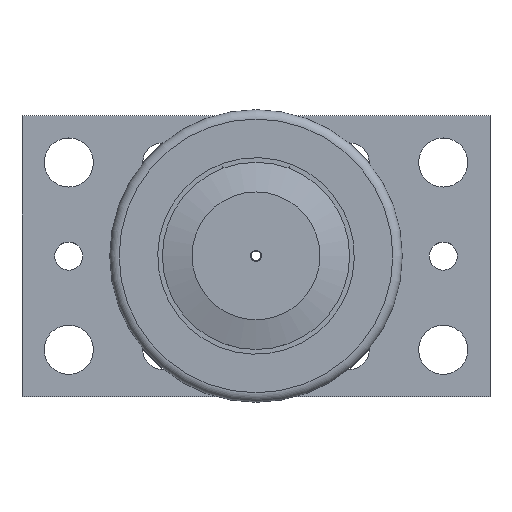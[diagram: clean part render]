
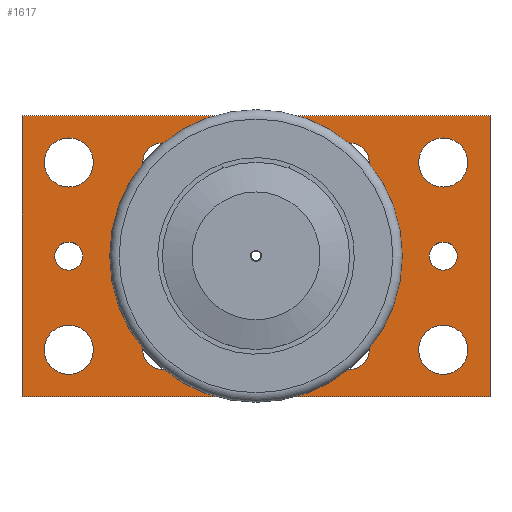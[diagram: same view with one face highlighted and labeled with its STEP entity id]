
A CAD part, top view. The second image highlights one B-rep face of the part: STEP entity #1617.
In plain terms, the highlighted planar face has unit normal (0, 0, 1).
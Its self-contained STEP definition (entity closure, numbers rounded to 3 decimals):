
#69=FACE_BOUND('',#229,.T.);
#70=FACE_BOUND('',#230,.T.);
#71=FACE_BOUND('',#231,.T.);
#72=FACE_BOUND('',#232,.T.);
#73=FACE_BOUND('',#233,.T.);
#74=FACE_BOUND('',#234,.T.);
#75=FACE_BOUND('',#235,.T.);
#76=FACE_BOUND('',#236,.T.);
#77=FACE_BOUND('',#237,.T.);
#78=FACE_BOUND('',#238,.T.);
#79=FACE_BOUND('',#239,.T.);
#114=PLANE('',#1730);
#143=FACE_OUTER_BOUND('',#228,.T.);
#228=EDGE_LOOP('',(#1061,#1062,#1063,#1064));
#229=EDGE_LOOP('',(#1065,#1066));
#230=EDGE_LOOP('',(#1067,#1068));
#231=EDGE_LOOP('',(#1069,#1070));
#232=EDGE_LOOP('',(#1071,#1072));
#233=EDGE_LOOP('',(#1073,#1074));
#234=EDGE_LOOP('',(#1075));
#235=EDGE_LOOP('',(#1076));
#236=EDGE_LOOP('',(#1077));
#237=EDGE_LOOP('',(#1078));
#238=EDGE_LOOP('',(#1079));
#239=EDGE_LOOP('',(#1080));
#358=LINE('',#2564,#420);
#359=LINE('',#2566,#421);
#360=LINE('',#2568,#422);
#361=LINE('',#2569,#423);
#420=VECTOR('',#1993,10.);
#421=VECTOR('',#1994,10.);
#422=VECTOR('',#1995,10.);
#423=VECTOR('',#1996,10.);
#484=CIRCLE('',#1731,17.5);
#485=CIRCLE('',#1732,17.5);
#486=CIRCLE('',#1733,4.188);
#487=CIRCLE('',#1734,4.188);
#488=CIRCLE('',#1735,4.188);
#489=CIRCLE('',#1736,4.188);
#490=CIRCLE('',#1737,4.188);
#491=CIRCLE('',#1738,4.188);
#492=CIRCLE('',#1739,4.188);
#493=CIRCLE('',#1740,4.188);
#494=CIRCLE('',#1741,5.25);
#495=CIRCLE('',#1742,5.25);
#496=CIRCLE('',#1743,5.25);
#497=CIRCLE('',#1744,5.25);
#498=CIRCLE('',#1745,3.);
#499=CIRCLE('',#1746,3.);
#653=VERTEX_POINT('',#2562);
#654=VERTEX_POINT('',#2563);
#655=VERTEX_POINT('',#2565);
#656=VERTEX_POINT('',#2567);
#657=VERTEX_POINT('',#2570);
#658=VERTEX_POINT('',#2571);
#659=VERTEX_POINT('',#2574);
#660=VERTEX_POINT('',#2575);
#661=VERTEX_POINT('',#2578);
#662=VERTEX_POINT('',#2579);
#663=VERTEX_POINT('',#2582);
#664=VERTEX_POINT('',#2583);
#665=VERTEX_POINT('',#2586);
#666=VERTEX_POINT('',#2587);
#667=VERTEX_POINT('',#2590);
#668=VERTEX_POINT('',#2592);
#669=VERTEX_POINT('',#2594);
#670=VERTEX_POINT('',#2596);
#671=VERTEX_POINT('',#2598);
#672=VERTEX_POINT('',#2600);
#829=EDGE_CURVE('',#653,#654,#358,.T.);
#830=EDGE_CURVE('',#655,#653,#359,.T.);
#831=EDGE_CURVE('',#656,#655,#360,.T.);
#832=EDGE_CURVE('',#654,#656,#361,.T.);
#833=EDGE_CURVE('',#657,#658,#484,.T.);
#834=EDGE_CURVE('',#658,#657,#485,.T.);
#835=EDGE_CURVE('',#659,#660,#486,.T.);
#836=EDGE_CURVE('',#660,#659,#487,.T.);
#837=EDGE_CURVE('',#661,#662,#488,.T.);
#838=EDGE_CURVE('',#662,#661,#489,.T.);
#839=EDGE_CURVE('',#663,#664,#490,.T.);
#840=EDGE_CURVE('',#664,#663,#491,.T.);
#841=EDGE_CURVE('',#665,#666,#492,.T.);
#842=EDGE_CURVE('',#666,#665,#493,.T.);
#843=EDGE_CURVE('',#667,#667,#494,.T.);
#844=EDGE_CURVE('',#668,#668,#495,.T.);
#845=EDGE_CURVE('',#669,#669,#496,.T.);
#846=EDGE_CURVE('',#670,#670,#497,.T.);
#847=EDGE_CURVE('',#671,#671,#498,.T.);
#848=EDGE_CURVE('',#672,#672,#499,.T.);
#1061=ORIENTED_EDGE('',*,*,#829,.F.);
#1062=ORIENTED_EDGE('',*,*,#830,.F.);
#1063=ORIENTED_EDGE('',*,*,#831,.F.);
#1064=ORIENTED_EDGE('',*,*,#832,.F.);
#1065=ORIENTED_EDGE('',*,*,#833,.T.);
#1066=ORIENTED_EDGE('',*,*,#834,.T.);
#1067=ORIENTED_EDGE('',*,*,#835,.T.);
#1068=ORIENTED_EDGE('',*,*,#836,.T.);
#1069=ORIENTED_EDGE('',*,*,#837,.T.);
#1070=ORIENTED_EDGE('',*,*,#838,.T.);
#1071=ORIENTED_EDGE('',*,*,#839,.T.);
#1072=ORIENTED_EDGE('',*,*,#840,.T.);
#1073=ORIENTED_EDGE('',*,*,#841,.T.);
#1074=ORIENTED_EDGE('',*,*,#842,.T.);
#1075=ORIENTED_EDGE('',*,*,#843,.T.);
#1076=ORIENTED_EDGE('',*,*,#844,.T.);
#1077=ORIENTED_EDGE('',*,*,#845,.T.);
#1078=ORIENTED_EDGE('',*,*,#846,.T.);
#1079=ORIENTED_EDGE('',*,*,#847,.T.);
#1080=ORIENTED_EDGE('',*,*,#848,.T.);
#1617=ADVANCED_FACE('',(#143,#69,#70,#71,#72,#73,#74,#75,#76,#77,#78,#79),
#114,.T.);
#1730=AXIS2_PLACEMENT_3D('',#2561,#1991,#1992);
#1731=AXIS2_PLACEMENT_3D('',#2572,#1997,#1998);
#1732=AXIS2_PLACEMENT_3D('',#2573,#1999,#2000);
#1733=AXIS2_PLACEMENT_3D('',#2576,#2001,#2002);
#1734=AXIS2_PLACEMENT_3D('',#2577,#2003,#2004);
#1735=AXIS2_PLACEMENT_3D('',#2580,#2005,#2006);
#1736=AXIS2_PLACEMENT_3D('',#2581,#2007,#2008);
#1737=AXIS2_PLACEMENT_3D('',#2584,#2009,#2010);
#1738=AXIS2_PLACEMENT_3D('',#2585,#2011,#2012);
#1739=AXIS2_PLACEMENT_3D('',#2588,#2013,#2014);
#1740=AXIS2_PLACEMENT_3D('',#2589,#2015,#2016);
#1741=AXIS2_PLACEMENT_3D('',#2591,#2017,#2018);
#1742=AXIS2_PLACEMENT_3D('',#2593,#2019,#2020);
#1743=AXIS2_PLACEMENT_3D('',#2595,#2021,#2022);
#1744=AXIS2_PLACEMENT_3D('',#2597,#2023,#2024);
#1745=AXIS2_PLACEMENT_3D('',#2599,#2025,#2026);
#1746=AXIS2_PLACEMENT_3D('',#2601,#2027,#2028);
#1991=DIRECTION('center_axis',(0.,0.,
1.));
#1992=DIRECTION('ref_axis',(1.,0.,0.));
#1993=DIRECTION('',(0.,1.,0.));
#1994=DIRECTION('',(-1.,0.,0.));
#1995=DIRECTION('',(0.,-1.,0.));
#1996=DIRECTION('',(1.,0.,0.));
#1997=DIRECTION('center_axis',(0.,0.,
-1.));
#1998=DIRECTION('ref_axis',(0.,1.,0.));
#1999=DIRECTION('center_axis',(0.,0.,
-1.));
#2000=DIRECTION('ref_axis',(0.,1.,0.));
#2001=DIRECTION('center_axis',(0.,0.,
-1.));
#2002=DIRECTION('ref_axis',(1.,0.,0.));
#2003=DIRECTION('center_axis',(0.,0.,
-1.));
#2004=DIRECTION('ref_axis',(1.,0.,0.));
#2005=DIRECTION('center_axis',(0.,0.,
-1.));
#2006=DIRECTION('ref_axis',(1.,0.,0.));
#2007=DIRECTION('center_axis',(0.,0.,
-1.));
#2008=DIRECTION('ref_axis',(1.,0.,0.));
#2009=DIRECTION('center_axis',(0.,0.,
-1.));
#2010=DIRECTION('ref_axis',(1.,0.,0.));
#2011=DIRECTION('center_axis',(0.,0.,
-1.));
#2012=DIRECTION('ref_axis',(1.,0.,0.));
#2013=DIRECTION('center_axis',(0.,0.,
-1.));
#2014=DIRECTION('ref_axis',(1.,0.,0.));
#2015=DIRECTION('center_axis',(0.,0.,
-1.));
#2016=DIRECTION('ref_axis',(1.,0.,0.));
#2017=DIRECTION('center_axis',(0.,0.,
-1.));
#2018=DIRECTION('ref_axis',(-1.,0.,0.));
#2019=DIRECTION('center_axis',(0.,0.,
-1.));
#2020=DIRECTION('ref_axis',(-1.,0.,0.));
#2021=DIRECTION('center_axis',(0.,0.,
-1.));
#2022=DIRECTION('ref_axis',(-1.,0.,0.));
#2023=DIRECTION('center_axis',(0.,0.,
-1.));
#2024=DIRECTION('ref_axis',(-1.,0.,0.));
#2025=DIRECTION('center_axis',(0.,0.,
-1.));
#2026=DIRECTION('ref_axis',(-1.,0.,0.));
#2027=DIRECTION('center_axis',(0.,0.,
-1.));
#2028=DIRECTION('ref_axis',(-1.,0.,0.));
#2561=CARTESIAN_POINT('Origin',(1.894,2.2,-8.949));
#2562=CARTESIAN_POINT('',(-48.106,-27.8,-8.949));
#2563=CARTESIAN_POINT('',(-48.106,32.2,-8.949));
#2564=CARTESIAN_POINT('',(-48.106,32.2,-8.949));
#2565=CARTESIAN_POINT('',(51.894,-27.8,-8.949));
#2566=CARTESIAN_POINT('',(-48.106,-27.8,-8.949));
#2567=CARTESIAN_POINT('',(51.894,32.2,-8.949));
#2568=CARTESIAN_POINT('',(51.894,-27.8,-8.949));
#2569=CARTESIAN_POINT('',(51.894,32.2,-8.949));
#2570=CARTESIAN_POINT('',(1.894,19.7,-8.949));
#2571=CARTESIAN_POINT('',(1.894,-15.3,-8.949));
#2572=CARTESIAN_POINT('Origin',(1.894,2.2,-8.949));
#2573=CARTESIAN_POINT('Origin',(1.894,2.2,-8.949));
#2574=CARTESIAN_POINT('',(-13.918,-17.8,-8.949));
#2575=CARTESIAN_POINT('',(-22.294,-17.8,-8.949));
#2576=CARTESIAN_POINT('Origin',(-18.106,-17.8,-8.949));
#2577=CARTESIAN_POINT('Origin',(-18.106,-17.8,-8.949));
#2578=CARTESIAN_POINT('',(26.082,-17.8,-8.949));
#2579=CARTESIAN_POINT('',(17.706,-17.8,-8.949));
#2580=CARTESIAN_POINT('Origin',(21.894,-17.8,-8.949));
#2581=CARTESIAN_POINT('Origin',(21.894,-17.8,-8.949));
#2582=CARTESIAN_POINT('',(26.082,22.2,-8.949));
#2583=CARTESIAN_POINT('',(17.706,22.2,-8.949));
#2584=CARTESIAN_POINT('Origin',(21.894,22.2,-8.949));
#2585=CARTESIAN_POINT('Origin',(21.894,22.2,-8.949));
#2586=CARTESIAN_POINT('',(-13.918,22.2,-8.949));
#2587=CARTESIAN_POINT('',(-22.294,22.2,-8.949));
#2588=CARTESIAN_POINT('Origin',(-18.106,22.2,-8.949));
#2589=CARTESIAN_POINT('Origin',(-18.106,22.2,-8.949));
#2590=CARTESIAN_POINT('',(47.144,22.2,-8.949));
#2591=CARTESIAN_POINT('Origin',(41.894,22.2,-8.949));
#2592=CARTESIAN_POINT('',(-32.856,-17.8,-8.949));
#2593=CARTESIAN_POINT('Origin',(-38.106,-17.8,-8.949));
#2594=CARTESIAN_POINT('',(-32.856,22.2,-8.949));
#2595=CARTESIAN_POINT('Origin',(-38.106,22.2,-8.949));
#2596=CARTESIAN_POINT('',(47.144,-17.8,-8.949));
#2597=CARTESIAN_POINT('Origin',(41.894,-17.8,-8.949));
#2598=CARTESIAN_POINT('',(44.894,2.2,-8.949));
#2599=CARTESIAN_POINT('Origin',(41.894,2.2,-8.949));
#2600=CARTESIAN_POINT('',(-35.106,2.2,-8.949));
#2601=CARTESIAN_POINT('Origin',(-38.106,2.2,-8.949));
